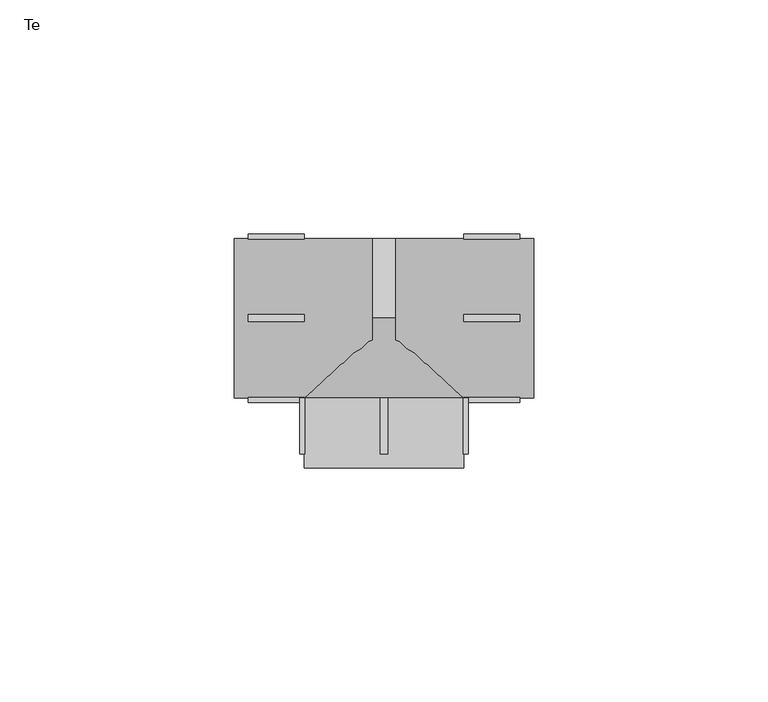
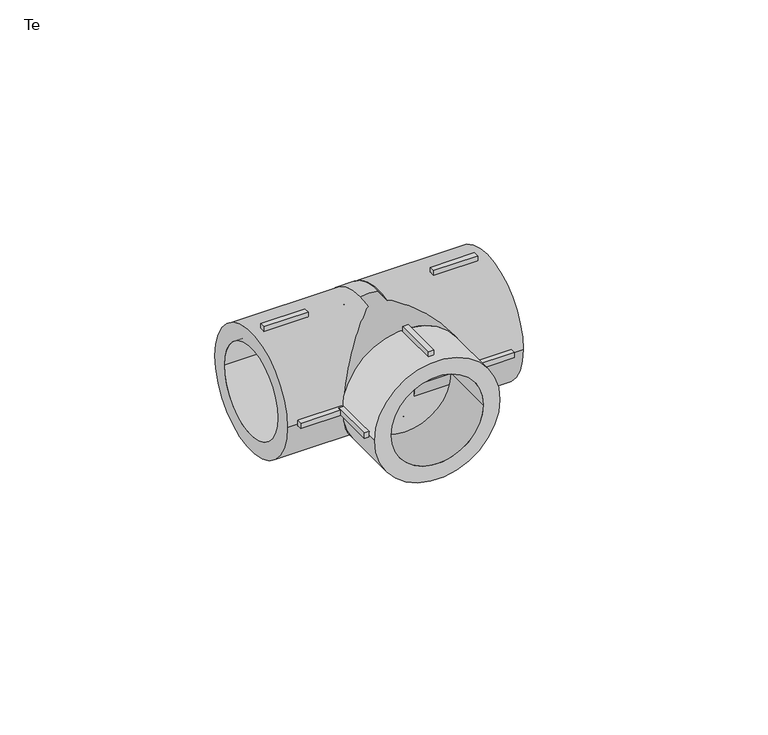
"""IFC4 building model written with IfcOpenShell, lengths in millimetres: pipe fitting geometry, EGB_VASEN_ PPR_Te WXR300_Te reducida WXR310 : Te."""

from ifc_helpers import new_model, si_unit, point, frame, origin, origin_2d, place, context, project, spatial, polyline, circle_curve, trimmed, segment, composite_curve, outline, extrude, source, transform, mapped, element, save


def te_eb473c64(model_context):
    return source(origin(), model_context, "Body", "SweptSolid", [
        extrude(outline(polyline([(-0.75, -17.0), (0.75, -17.0), (0.75, -29.0), (-0.75, -29.0), (-0.75, -17.0)])), frame((0.0, 0.0, 16.0), z_axis=(0.0, 0.0, 1.0), x_axis=(1.0, 0.0, 0.0)), (0.0, 0.0, 1.0), 2.0),
        extrude(outline(polyline([(-0.75, -17.0), (0.75, -17.0), (0.75, -29.0), (-0.75, -29.0), (-0.75, -17.0)])), frame((0.0, 0.0, -18.0), z_axis=(0.0, 0.0, 1.0), x_axis=(1.0, 0.0, 0.0)), (0.0, 0.0, 1.0), 2.0),
        extrude(outline(polyline([(16.0, -17.0), (18.0, -17.0), (18.0, -29.0), (16.0, -29.0), (16.0, -17.0)])), frame((0.0, 0.0, -0.75), z_axis=(0.0, 0.0, 1.0), x_axis=(1.0, 0.0, 0.0)), (0.0, 0.0, 1.0), 1.5),
        extrude(outline(polyline([(-18.0, -17.0), (-16.0, -17.0), (-16.0, -29.0), (-18.0, -29.0), (-18.0, -17.0)])), frame((0.0, 0.0, -0.75), z_axis=(0.0, 0.0, 1.0), x_axis=(1.0, 0.0, 0.0)), (0.0, 0.0, 1.0), 1.5),
        extrude(outline(polyline([(17.0, -0.75), (17.0, 0.75), (29.0, 0.75), (29.0, -0.75), (17.0, -0.75)])), frame((0.0, 0.0, 16.0), z_axis=(0.0, 0.0, 1.0), x_axis=(1.0, 0.0, 0.0)), (0.0, 0.0, 1.0), 2.0),
        extrude(outline(polyline([(17.0, -0.75), (17.0, 0.75), (29.0, 0.75), (29.0, -0.75), (17.0, -0.75)])), frame((0.0, 0.0, -18.0), z_axis=(0.0, 0.0, 1.0), x_axis=(1.0, 0.0, 0.0)), (0.0, 0.0, 1.0), 2.0),
        extrude(outline(polyline([(17.0, 16.0), (17.0, 18.0), (29.0, 18.0), (29.0, 16.0), (17.0, 16.0)])), frame((0.0, 0.0, -0.75), z_axis=(0.0, 0.0, 1.0), x_axis=(1.0, 0.0, 0.0)), (0.0, 0.0, 1.0), 1.5),
        extrude(outline(polyline([(17.0, -18.0), (17.0, -16.0), (29.0, -16.0), (29.0, -18.0), (17.0, -18.0)])), frame((0.0, 0.0, -0.75), z_axis=(0.0, 0.0, 1.0), x_axis=(1.0, 0.0, 0.0)), (0.0, 0.0, 1.0), 1.5),
        extrude(outline(polyline([(-17.0, 0.75), (-17.0, -0.75), (-29.0, -0.75), (-29.0, 0.75), (-17.0, 0.75)])), frame((0.0, 0.0, 16.0), z_axis=(0.0, 0.0, 1.0), x_axis=(1.0, 0.0, 0.0)), (0.0, 0.0, 1.0), 2.0),
        extrude(outline(polyline([(-17.0, 0.75), (-17.0, -0.75), (-29.0, -0.75), (-29.0, 0.75), (-17.0, 0.75)])), frame((0.0, 0.0, -18.0), z_axis=(0.0, 0.0, 1.0), x_axis=(1.0, 0.0, 0.0)), (0.0, 0.0, 1.0), 2.0),
        extrude(outline(polyline([(-17.0, 18.0), (-17.0, 16.0), (-29.0, 16.0), (-29.0, 18.0), (-17.0, 18.0)])), frame((0.0, 0.0, -0.75), z_axis=(0.0, 0.0, 1.0), x_axis=(1.0, 0.0, 0.0)), (0.0, 0.0, 1.0), 1.5),
        extrude(outline(polyline([(-17.0, -16.0), (-17.0, -18.0), (-29.0, -18.0), (-29.0, -16.0), (-17.0, -16.0)])), frame((0.0, 0.0, -0.75), z_axis=(0.0, 0.0, 1.0), x_axis=(1.0, 0.0, 0.0)), (0.0, 0.0, 1.0), 1.5),
        extrude(outline(composite_curve([segment(trimmed(circle_curve(origin_2d(), 17.0), [point((0.0, 17.0))], [point((0.0, -17.0))], False, "CARTESIAN"), True, "CONTINUOUS"), segment(trimmed(circle_curve(origin_2d(), 17.0), [point((0.0, -17.0))], [point((0.0, 17.0))], False, "CARTESIAN"), True, "CONTINUOUS")], self_intersect=False), holes=[composite_curve([segment(trimmed(circle_curve(origin_2d(), 12.5), [point((0.0, 12.5))], [point((0.0, -12.5))], True, "CARTESIAN"), True, "CONTINUOUS"), segment(trimmed(circle_curve(origin_2d(), 12.5), [point((0.0, -12.5))], [point((0.0, 12.5))], True, "CARTESIAN"), True, "CONTINUOUS")], self_intersect=False)]), frame((0.0, -32.0, 0.0), z_axis=(0.0, 1.0, 0.0), x_axis=(0.0, 0.0, 1.0)), (0.0, 0.0, 1.0), 15.0),
        extrude(outline(composite_curve([segment(trimmed(circle_curve(origin_2d(), 17.0), [point((-17.0, 0.0))], [point((17.0, 0.0))], False, "CARTESIAN"), True, "CONTINUOUS"), segment(trimmed(circle_curve(origin_2d(), 17.0), [point((17.0, 0.0))], [point((-17.0, 0.0))], False, "CARTESIAN"), True, "CONTINUOUS")], self_intersect=False), holes=[composite_curve([segment(trimmed(circle_curve(origin_2d(), 12.5), [point((-12.5, 0.0))], [point((12.5, 0.0))], True, "CARTESIAN"), True, "CONTINUOUS"), segment(trimmed(circle_curve(origin_2d(), 12.5), [point((12.5, 0.0))], [point((-12.5, 0.0))], True, "CARTESIAN"), True, "CONTINUOUS")], self_intersect=False)]), frame((2.56, 0.0, 0.0), z_axis=(1.0, 0.0, 0.0), x_axis=(0.0, 1.0, 0.0)), (0.0, 0.0, 1.0), 29.44),
        extrude(outline(composite_curve([segment(trimmed(circle_curve(origin_2d(), 17.0), [point((-17.0, 0.0))], [point((17.0, 0.0))], False, "CARTESIAN"), True, "CONTINUOUS"), segment(trimmed(circle_curve(origin_2d(), 17.0), [point((17.0, 0.0))], [point((-17.0, 0.0))], False, "CARTESIAN"), True, "CONTINUOUS")], self_intersect=False), holes=[composite_curve([segment(trimmed(circle_curve(origin_2d(), 12.5), [point((-12.5, 0.0))], [point((12.5, 0.0))], True, "CARTESIAN"), True, "CONTINUOUS"), segment(trimmed(circle_curve(origin_2d(), 12.5), [point((12.5, 0.0))], [point((-12.5, 0.0))], True, "CARTESIAN"), True, "CONTINUOUS")], self_intersect=False)]), frame((-32.0, 0.0, 0.0), z_axis=(1.0, 0.0, 0.0), x_axis=(0.0, 1.0, 0.0)), (0.0, 0.0, 1.0), 29.44),
        extrude(outline(composite_curve([segment(trimmed(circle_curve(origin_2d(), 17.0), [point((0.0, 17.0))], [point((0.0, -17.0))], False, "CARTESIAN"), True, "CONTINUOUS"), segment(trimmed(circle_curve(origin_2d(), 17.0), [point((0.0, -17.0))], [point((0.0, 17.0))], False, "CARTESIAN"), True, "CONTINUOUS")], self_intersect=False)), frame((0.0, -17.0, 0.0), z_axis=(0.0, 1.0, 0.0), x_axis=(0.0, 0.0, 1.0)), (0.0, 0.0, 1.0), 17.0),
        extrude(outline(composite_curve([segment(trimmed(circle_curve(origin_2d(), 17.0), [point((-17.0, 0.0))], [point((17.0, 0.0))], False, "CARTESIAN"), True, "CONTINUOUS"), segment(trimmed(circle_curve(origin_2d(), 17.0), [point((17.0, 0.0))], [point((-17.0, 0.0))], False, "CARTESIAN"), True, "CONTINUOUS")], self_intersect=False)), frame((-2.56, 0.0, 0.0), z_axis=(1.0, 0.0, 0.0), x_axis=(0.0, 1.0, 0.0)), (0.0, 0.0, 1.0), 5.12),
    ])


if __name__ == "__main__":
    model = new_model("IFC4")
    model_context = context("Model", 3, world=origin())
    ifc_project = project(units=[si_unit("LENGTHUNIT", "METRE", prefix="MILLI")], contexts=[model_context])
    site = spatial("IfcSite", under=ifc_project)
    building = spatial("IfcBuilding", under=site)
    placement = place(None, origin())
    te_shape = te_eb473c64(model_context)
    element("IfcPipeFitting", 1, ObjectType="EGB_VASEN_ PPR_Te WXR300_Te reducida WXR310 : Te", at=placement, inside=building, context=model_context, shape_type="MappedRepresentation", body=[
        mapped(te_shape, transform((0.0, 0.0, 0.0), x_axis=(1.0, 0.0, 0.0), y_axis=(0.0, 1.0, 0.0), z_axis=(0.0, 0.0, 1.0))),
    ])
    save(model, "model.ifc")
